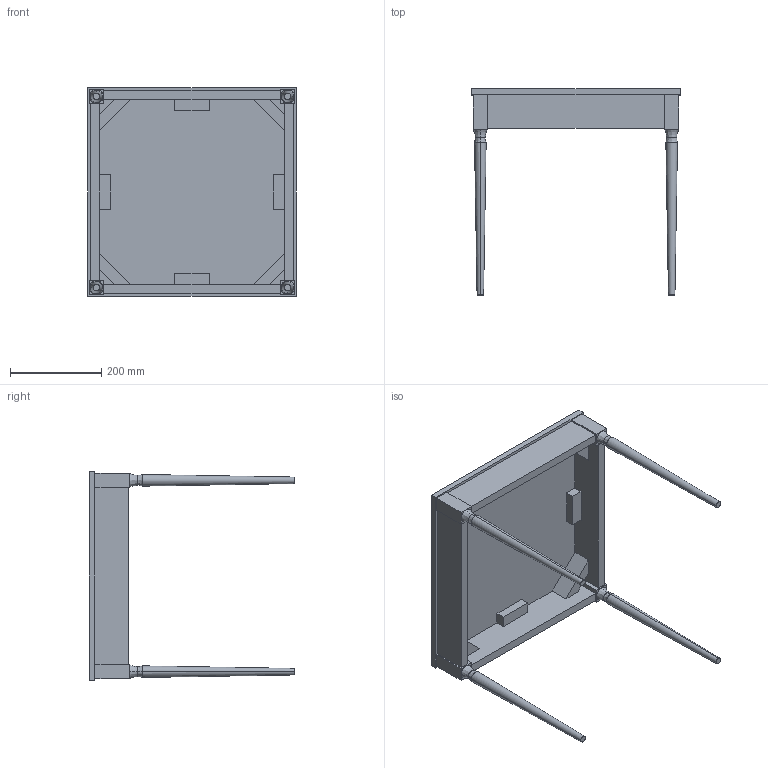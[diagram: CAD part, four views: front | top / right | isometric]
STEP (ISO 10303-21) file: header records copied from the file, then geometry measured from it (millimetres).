
FILE_DESCRIPTION (( 'STEP AP214' ), '1' );
FILE_NAME ('Draft_ASM_JL Side Table 1_08-NOV-21.STEP', '2021-11-08T16:19:24', ( '' ), ( '' ), 'SwSTEP 2.0', 'SolidWorks 2021', '' );
FILE_SCHEMA (( 'AUTOMOTIVE_DESIGN' ));
Length unit declared in the file: millimetre
Products named in the file (1): Draft_ASM_JL Side Table 1_08-NOV-21
Bounding box: 457.2 x 450.85 x 457.2 mm (x, y, z)
Volume: 6049139.7 mm3; surface area: 801231.9 mm2
Topology: 1 solids, 1 shells, 99 faces, 260 edges, 168 vertices
Faces by surface type: bspline 99
Entity records: 3177 total; most frequent: CARTESIAN_POINT 1584, ORIENTED_EDGE 520, EDGE_CURVE 260, B_SPLINE_CURVE_WITH_KNOTS 222, VERTEX_POINT 168, EDGE_LOOP 104, FACE_OUTER_BOUND 99, ADVANCED_FACE 99
